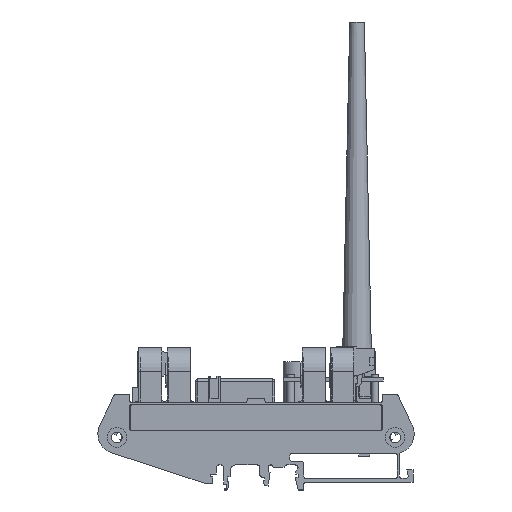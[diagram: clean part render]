
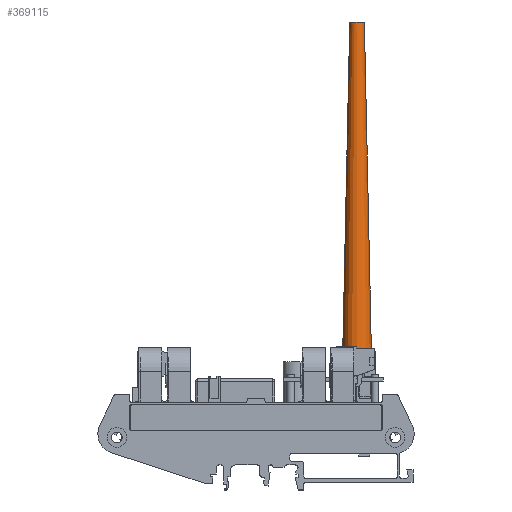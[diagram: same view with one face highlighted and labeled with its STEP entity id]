
A CAD part, left-side view. The second image highlights one B-rep face of the part: STEP entity #369115.
In plain terms, the highlighted conical face has half-angle 1.236 degrees and reference radius 6 mm.
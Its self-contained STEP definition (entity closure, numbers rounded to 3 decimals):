
#369115 = ADVANCED_FACE('',(#369116),#369129,.T.);
#369116 = FACE_BOUND('',#369117,.T.);
#369117 = EDGE_LOOP('',(#369118,#369152,#369175,#369202));
#369118 = ORIENTED_EDGE('',*,*,#369119,.F.);
#369119 = EDGE_CURVE('',#369120,#369120,#369122,.T.);
#369120 = VERTEX_POINT('',#369121);
#369121 = CARTESIAN_POINT('',(175.6,13.5,156.5));
#369122 = SURFACE_CURVE('',#369123,(#369128,#369140),.PCURVE_S1.);
#369123 = CIRCLE('',#369124,3.);
#369124 = AXIS2_PLACEMENT_3D('',#369125,#369126,#369127);
#369125 = CARTESIAN_POINT('',(172.6,13.5,156.5));
#369126 = DIRECTION('',(0.,0.,1.));
#369127 = DIRECTION('',(1.,0.,-0.));
#369128 = PCURVE('',#369129,#369134);
#369129 = CONICAL_SURFACE('',#369130,6.,0.022);
#369130 = AXIS2_PLACEMENT_3D('',#369131,#369132,#369133);
#369131 = CARTESIAN_POINT('',(172.6,13.5,17.5));
#369132 = DIRECTION('',(-0.,-0.,-1.));
#369133 = DIRECTION('',(1.,0.,0.));
#369134 = DEFINITIONAL_REPRESENTATION('',(#369135),#369139);
#369135 = LINE('',#369136,#369137);
#369136 = CARTESIAN_POINT('',(6.283,-139.));
#369137 = VECTOR('',#369138,1.);
#369138 = DIRECTION('',(-1.,0.));
#369139 = ( GEOMETRIC_REPRESENTATION_CONTEXT(2) 
PARAMETRIC_REPRESENTATION_CONTEXT() REPRESENTATION_CONTEXT('2D SPACE',''
  ) );
#369140 = PCURVE('',#369141,#369146);
#369141 = PLANE('',#369142);
#369142 = AXIS2_PLACEMENT_3D('',#369143,#369144,#369145);
#369143 = CARTESIAN_POINT('',(172.6,13.5,156.5));
#369144 = DIRECTION('',(0.,0.,1.));
#369145 = DIRECTION('',(1.,0.,-0.));
#369146 = DEFINITIONAL_REPRESENTATION('',(#369147),#369151);
#369147 = CIRCLE('',#369148,3.);
#369148 = AXIS2_PLACEMENT_2D('',#369149,#369150);
#369149 = CARTESIAN_POINT('',(0.,0.));
#369150 = DIRECTION('',(1.,0.));
#369151 = ( GEOMETRIC_REPRESENTATION_CONTEXT(2) 
PARAMETRIC_REPRESENTATION_CONTEXT() REPRESENTATION_CONTEXT('2D SPACE',''
  ) );
#369152 = ORIENTED_EDGE('',*,*,#369153,.F.);
#369153 = EDGE_CURVE('',#369154,#369120,#369156,.T.);
#369154 = VERTEX_POINT('',#369155);
#369155 = CARTESIAN_POINT('',(178.6,13.5,17.5));
#369156 = SEAM_CURVE('',#369157,(#369161,#369168),.PCURVE_S1.);
#369157 = LINE('',#369158,#369159);
#369158 = CARTESIAN_POINT('',(178.6,13.5,17.5));
#369159 = VECTOR('',#369160,1.);
#369160 = DIRECTION('',(-0.022,0.,1.));
#369161 = PCURVE('',#369129,#369162);
#369162 = DEFINITIONAL_REPRESENTATION('',(#369163),#369167);
#369163 = LINE('',#369164,#369165);
#369164 = CARTESIAN_POINT('',(6.283,0.));
#369165 = VECTOR('',#369166,1.);
#369166 = DIRECTION('',(-0.,-1.));
#369167 = ( GEOMETRIC_REPRESENTATION_CONTEXT(2) 
PARAMETRIC_REPRESENTATION_CONTEXT() REPRESENTATION_CONTEXT('2D SPACE',''
  ) );
#369168 = PCURVE('',#369129,#369169);
#369169 = DEFINITIONAL_REPRESENTATION('',(#369170),#369174);
#369170 = LINE('',#369171,#369172);
#369171 = CARTESIAN_POINT('',(0.,0.));
#369172 = VECTOR('',#369173,1.);
#369173 = DIRECTION('',(-0.,-1.));
#369174 = ( GEOMETRIC_REPRESENTATION_CONTEXT(2) 
PARAMETRIC_REPRESENTATION_CONTEXT() REPRESENTATION_CONTEXT('2D SPACE',''
  ) );
#369175 = ORIENTED_EDGE('',*,*,#369176,.T.);
#369176 = EDGE_CURVE('',#369154,#369154,#369177,.T.);
#369177 = SURFACE_CURVE('',#369178,(#369183,#369190),.PCURVE_S1.);
#369178 = CIRCLE('',#369179,6.);
#369179 = AXIS2_PLACEMENT_3D('',#369180,#369181,#369182);
#369180 = CARTESIAN_POINT('',(172.6,13.5,17.5));
#369181 = DIRECTION('',(0.,0.,1.));
#369182 = DIRECTION('',(1.,0.,-0.));
#369183 = PCURVE('',#369129,#369184);
#369184 = DEFINITIONAL_REPRESENTATION('',(#369185),#369189);
#369185 = LINE('',#369186,#369187);
#369186 = CARTESIAN_POINT('',(6.283,0.));
#369187 = VECTOR('',#369188,1.);
#369188 = DIRECTION('',(-1.,0.));
#369189 = ( GEOMETRIC_REPRESENTATION_CONTEXT(2) 
PARAMETRIC_REPRESENTATION_CONTEXT() REPRESENTATION_CONTEXT('2D SPACE',''
  ) );
#369190 = PCURVE('',#369191,#369196);
#369191 = PLANE('',#369192);
#369192 = AXIS2_PLACEMENT_3D('',#369193,#369194,#369195);
#369193 = CARTESIAN_POINT('',(172.6,13.5,17.5));
#369194 = DIRECTION('',(0.,0.,1.));
#369195 = DIRECTION('',(1.,0.,-0.));
#369196 = DEFINITIONAL_REPRESENTATION('',(#369197),#369201);
#369197 = CIRCLE('',#369198,6.);
#369198 = AXIS2_PLACEMENT_2D('',#369199,#369200);
#369199 = CARTESIAN_POINT('',(0.,0.));
#369200 = DIRECTION('',(1.,0.));
#369201 = ( GEOMETRIC_REPRESENTATION_CONTEXT(2) 
PARAMETRIC_REPRESENTATION_CONTEXT() REPRESENTATION_CONTEXT('2D SPACE',''
  ) );
#369202 = ORIENTED_EDGE('',*,*,#369153,.T.);
